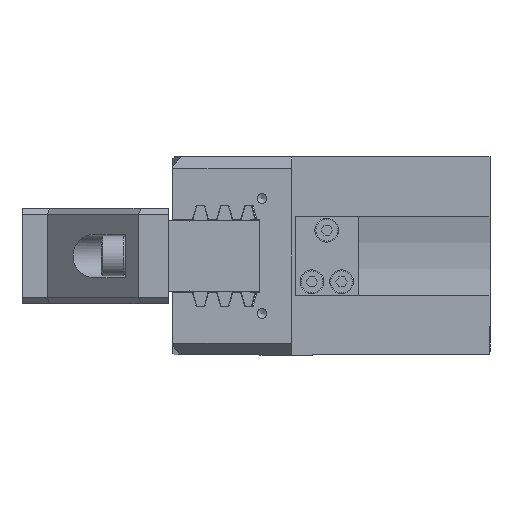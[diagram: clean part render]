
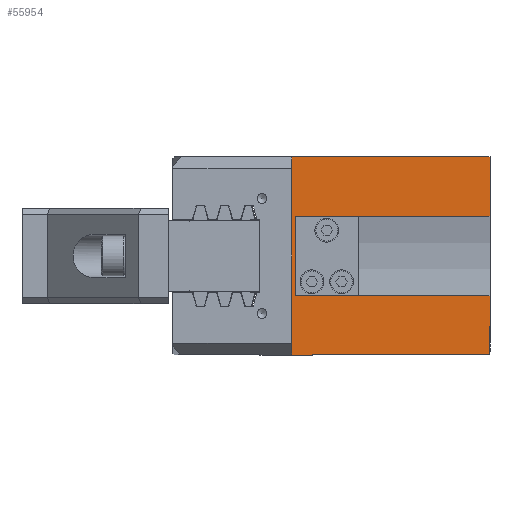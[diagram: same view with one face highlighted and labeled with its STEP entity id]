
A CAD part, left-side view. The second image highlights one B-rep face of the part: STEP entity #55954.
In plain terms, the highlighted planar face has unit normal (-1, 0, 0).
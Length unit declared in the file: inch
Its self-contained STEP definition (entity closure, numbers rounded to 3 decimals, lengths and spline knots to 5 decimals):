
#90 = CARTESIAN_POINT ( 'NONE',  ( -1.59449, 0., 0.98425 ) ) ;
#546 = DIRECTION ( 'NONE',  ( 0., 0., -1. ) ) ;
#626 = CARTESIAN_POINT ( 'NONE',  ( -1.59449, 0., 0.98425 ) ) ;
#776 = LINE ( 'NONE', #5676, #11007 ) ;
#983 = VERTEX_POINT ( 'NONE', #42893 ) ;
#1010 = ORIENTED_EDGE ( 'NONE', *, *, #56896, .F. ) ;
#2356 = CARTESIAN_POINT ( 'NONE',  ( -1.59449, 0., -0.39554 ) ) ;
#2763 = ORIENTED_EDGE ( 'NONE', *, *, #46101, .T. ) ;
#3922 = ORIENTED_EDGE ( 'NONE', *, *, #34974, .T. ) ;
#4556 = VECTOR ( 'NONE', #29280, 39.37008 ) ;
#5676 = CARTESIAN_POINT ( 'NONE',  ( -1.59449, 0., 0.98425 ) ) ;
#6098 = DIRECTION ( 'NONE',  ( 0., 0., -1. ) ) ;
#6530 = CARTESIAN_POINT ( 'NONE',  ( -1.59449, 0., 0.98425 ) ) ;
#7149 = VECTOR ( 'NONE', #15590, 39.37008 ) ;
#9273 = DIRECTION ( 'NONE',  ( 1., 0., 0. ) ) ;
#9303 = DIRECTION ( 'NONE',  ( 0., 0., -1. ) ) ;
#9897 = CARTESIAN_POINT ( 'NONE',  ( -1.59449, 1.9685, 0.98425 ) ) ;
#10674 = CARTESIAN_POINT ( 'NONE',  ( -1.59449, 1.75984, -0.98425 ) ) ;
#10923 = FACE_BOUND ( 'NONE', #15232, .T. ) ;
#11007 = VECTOR ( 'NONE', #24060, 39.37008 ) ;
#11107 = CARTESIAN_POINT ( 'NONE',  ( -1.59449, 1.35236, 0.39554 ) ) ;
#11346 = LINE ( 'NONE', #2356, #48700 ) ;
#11405 = CARTESIAN_POINT ( 'NONE',  ( -1.59449, 1.75984, -0.98031 ) ) ;
#11431 = DIRECTION ( 'NONE',  ( 0., -1., 0. ) ) ;
#11939 = ORIENTED_EDGE ( 'NONE', *, *, #54957, .F. ) ;
#13021 = LINE ( 'NONE', #48519, #16713 ) ;
#13362 = CARTESIAN_POINT ( 'NONE',  ( -1.59449, 1.76772, -0.25591 ) ) ;
#13483 = EDGE_CURVE ( 'NONE', #24612, #46966, #51347, .T. ) ;
#14187 = DIRECTION ( 'NONE',  ( 0., 0., -1. ) ) ;
#14519 = VERTEX_POINT ( 'NONE', #35122 ) ;
#15232 = EDGE_LOOP ( 'NONE', ( #33796 ) ) ;
#15590 = DIRECTION ( 'NONE',  ( 0., -1., 0. ) ) ;
#15756 = CIRCLE ( 'NONE', #32510, 0.04841 ) ;
#15893 = CARTESIAN_POINT ( 'NONE',  ( -1.59449, 0., -0.39554 ) ) ;
#15902 = ORIENTED_EDGE ( 'NONE', *, *, #13483, .T. ) ;
#16713 = VECTOR ( 'NONE', #14187, 39.37008 ) ;
#19390 = VERTEX_POINT ( 'NONE', #35199 ) ;
#19761 = AXIS2_PLACEMENT_3D ( 'NONE', #13362, #9273, #546 ) ;
#19983 = LINE ( 'NONE', #55504, #7149 ) ;
#20009 = LINE ( 'NONE', #15893, #4556 ) ;
#20074 = EDGE_CURVE ( 'NONE', #38603, #14519, #53972, .T. ) ;
#20481 = CARTESIAN_POINT ( 'NONE',  ( -1.59449, 1.75984, -0.98425 ) ) ;
#20831 = DIRECTION ( 'NONE',  ( 0., 0., 1. ) ) ;
#21058 = CARTESIAN_POINT ( 'NONE',  ( -1.59449, 0., -0.39554 ) ) ;
#22419 = CARTESIAN_POINT ( 'NONE',  ( -1.59449, 1.47244, -0.25591 ) ) ;
#22922 = ORIENTED_EDGE ( 'NONE', *, *, #46072, .T. ) ;
#23106 = DIRECTION ( 'NONE',  ( 0., 1., 0. ) ) ;
#23405 = EDGE_CURVE ( 'NONE', #25625, #25625, #49598, .T. ) ;
#24060 = DIRECTION ( 'NONE',  ( 0., 0., -1. ) ) ;
#24612 = VERTEX_POINT ( 'NONE', #11405 ) ;
#24642 = DIRECTION ( 'NONE',  ( 0., 0., 1. ) ) ;
#25215 = CARTESIAN_POINT ( 'NONE',  ( -1.59449, 0., -0.98031 ) ) ;
#25625 = VERTEX_POINT ( 'NONE', #34950 ) ;
#25886 = EDGE_CURVE ( 'NONE', #44338, #19390, #13021, .T. ) ;
#26013 = VECTOR ( 'NONE', #46950, 39.37008 ) ;
#27560 = EDGE_LOOP ( 'NONE', ( #3922 ) ) ;
#27803 = ORIENTED_EDGE ( 'NONE', *, *, #55108, .T. ) ;
#27896 = VECTOR ( 'NONE', #11431, 39.37008 ) ;
#28544 = DIRECTION ( 'NONE',  ( 0., 0., -1. ) ) ;
#29280 = DIRECTION ( 'NONE',  ( 0., 1., 0. ) ) ;
#29283 = VERTEX_POINT ( 'NONE', #21058 ) ;
#30500 = VECTOR ( 'NONE', #23106, 39.37008 ) ;
#30711 = ORIENTED_EDGE ( 'NONE', *, *, #25886, .F. ) ;
#31655 = VECTOR ( 'NONE', #6098, 39.37008 ) ;
#32510 = AXIS2_PLACEMENT_3D ( 'NONE', #22419, #45372, #9303 ) ;
#32924 = LINE ( 'NONE', #9897, #31655 ) ;
#33319 = CARTESIAN_POINT ( 'NONE',  ( -1.59449, 0., 0.39554 ) ) ;
#33654 = LINE ( 'NONE', #10674, #40796 ) ;
#33796 = ORIENTED_EDGE ( 'NONE', *, *, #23405, .T. ) ;
#34950 = CARTESIAN_POINT ( 'NONE',  ( -1.59449, 1.76772, -0.30431 ) ) ;
#34974 = EDGE_CURVE ( 'NONE', #56864, #56864, #15756, .T. ) ;
#35122 = CARTESIAN_POINT ( 'NONE',  ( -1.59449, 1.9685, 0.98425 ) ) ;
#35199 = CARTESIAN_POINT ( 'NONE',  ( -1.59449, 1.35236, -0.39554 ) ) ;
#36236 = LINE ( 'NONE', #20481, #26013 ) ;
#38006 = FACE_OUTER_BOUND ( 'NONE', #45111, .T. ) ;
#38289 = FACE_BOUND ( 'NONE', #27560, .T. ) ;
#38603 = VERTEX_POINT ( 'NONE', #626 ) ;
#38704 = EDGE_CURVE ( 'NONE', #29283, #46966, #11346, .T. ) ;
#40796 = VECTOR ( 'NONE', #24642, 39.37008 ) ;
#41157 = VERTEX_POINT ( 'NONE', #33319 ) ;
#42285 = CARTESIAN_POINT ( 'NONE',  ( -1.59449, 1.47244, -0.30431 ) ) ;
#42454 = EDGE_CURVE ( 'NONE', #14519, #983, #32924, .T. ) ;
#42893 = CARTESIAN_POINT ( 'NONE',  ( -1.59449, 1.9685, -0.98425 ) ) ;
#43236 = PLANE ( 'NONE',  #47281 ) ;
#44338 = VERTEX_POINT ( 'NONE', #11107 ) ;
#44347 = ORIENTED_EDGE ( 'NONE', *, *, #20074, .T. ) ;
#45111 = EDGE_LOOP ( 'NONE', ( #54252, #2763, #30711, #27803, #11939, #44347, #48995, #1010, #22922, #15902 ) ) ;
#45372 = DIRECTION ( 'NONE',  ( 1., 0., 0. ) ) ;
#45652 = VERTEX_POINT ( 'NONE', #52710 ) ;
#46072 = EDGE_CURVE ( 'NONE', #45652, #24612, #33654, .T. ) ;
#46101 = EDGE_CURVE ( 'NONE', #29283, #19390, #20009, .T. ) ;
#46687 = CARTESIAN_POINT ( 'NONE',  ( -1.59449, 1.75984, -0.98031 ) ) ;
#46950 = DIRECTION ( 'NONE',  ( 0., 1., 0. ) ) ;
#46966 = VERTEX_POINT ( 'NONE', #25215 ) ;
#47281 = AXIS2_PLACEMENT_3D ( 'NONE', #6530, #51684, #20831 ) ;
#48519 = CARTESIAN_POINT ( 'NONE',  ( -1.59449, 1.35236, 0.39554 ) ) ;
#48700 = VECTOR ( 'NONE', #28544, 39.37008 ) ;
#48995 = ORIENTED_EDGE ( 'NONE', *, *, #42454, .T. ) ;
#49598 = CIRCLE ( 'NONE', #19761, 0.04841 ) ;
#51347 = LINE ( 'NONE', #46687, #27896 ) ;
#51684 = DIRECTION ( 'NONE',  ( -1., 0., 0. ) ) ;
#52710 = CARTESIAN_POINT ( 'NONE',  ( -1.59449, 1.75984, -0.98425 ) ) ;
#53972 = LINE ( 'NONE', #90, #30500 ) ;
#54252 = ORIENTED_EDGE ( 'NONE', *, *, #38704, .F. ) ;
#54957 = EDGE_CURVE ( 'NONE', #38603, #41157, #776, .T. ) ;
#55108 = EDGE_CURVE ( 'NONE', #44338, #41157, #19983, .T. ) ;
#55504 = CARTESIAN_POINT ( 'NONE',  ( -1.59449, 1.35236, 0.39554 ) ) ;
#55954 = ADVANCED_FACE ( 'NONE', ( #10923, #38289, #38006 ), #43236, .T. ) ;
#56864 = VERTEX_POINT ( 'NONE', #42285 ) ;
#56896 = EDGE_CURVE ( 'NONE', #45652, #983, #36236, .T. ) ;
